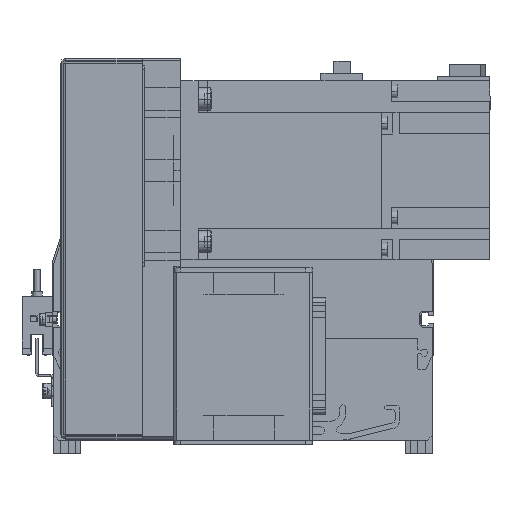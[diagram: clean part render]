
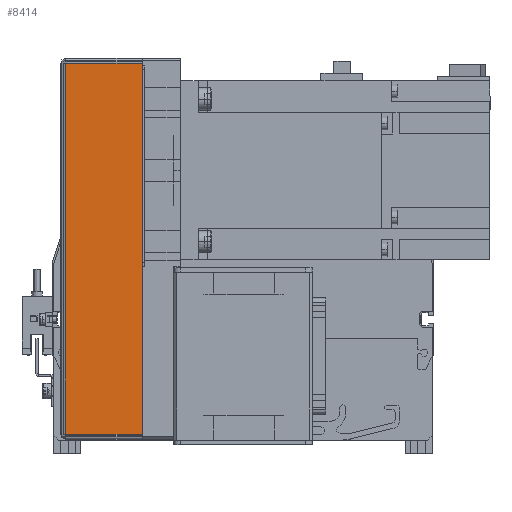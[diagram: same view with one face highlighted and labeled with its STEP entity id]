
A CAD part, front view. The second image highlights one B-rep face of the part: STEP entity #8414.
In plain terms, the highlighted planar face has unit normal (0, -1, 0).
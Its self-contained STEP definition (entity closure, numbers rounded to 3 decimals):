
#2685 = LINE ( 'NONE', #36532, #5942 ) ;
#5113 = VECTOR ( 'NONE', #21536, 1000. ) ;
#5942 = VECTOR ( 'NONE', #18668, 1000. ) ;
#6854 = VERTEX_POINT ( 'NONE', #26775 ) ;
#7356 = ORIENTED_EDGE ( 'NONE', *, *, #21666, .F. ) ;
#7513 = CARTESIAN_POINT ( 'NONE',  ( 14.931, -45.778, 177. ) ) ;
#8273 = CARTESIAN_POINT ( 'NONE',  ( 97.724, -45.778, 212. ) ) ;
#8414 = ADVANCED_FACE ( 'NONE', ( #16916 ), #44774, .F. ) ;
#9793 = CARTESIAN_POINT ( 'NONE',  ( 14.931, -45.778, 213.5 ) ) ;
#11391 = VECTOR ( 'NONE', #13062, 1000. ) ;
#12209 = VERTEX_POINT ( 'NONE', #36541 ) ;
#13062 = DIRECTION ( 'NONE',  ( 0., 0., -1. ) ) ;
#14167 = EDGE_LOOP ( 'NONE', ( #7356, #14968, #42863, #14655 ) ) ;
#14312 = LINE ( 'NONE', #7513, #5113 ) ;
#14655 = ORIENTED_EDGE ( 'NONE', *, *, #24551, .T. ) ;
#14968 = ORIENTED_EDGE ( 'NONE', *, *, #44010, .F. ) ;
#16397 = EDGE_CURVE ( 'NONE', #6854, #38514, #34083, .T. ) ;
#16916 = FACE_OUTER_BOUND ( 'NONE', #14167, .T. ) ;
#17923 = VECTOR ( 'NONE', #23087, 1000. ) ;
#18668 = DIRECTION ( 'NONE',  ( 1., 0., 0. ) ) ;
#21536 = DIRECTION ( 'NONE',  ( 1., 0., 0. ) ) ;
#21666 = EDGE_CURVE ( 'NONE', #12209, #42993, #35728, .T. ) ;
#23036 = CARTESIAN_POINT ( 'NONE',  ( 97.724, -45.778, 177. ) ) ;
#23087 = DIRECTION ( 'NONE',  ( 0., 0., -1. ) ) ;
#24551 = EDGE_CURVE ( 'NONE', #38514, #42993, #14312, .T. ) ;
#24997 = CARTESIAN_POINT ( 'NONE',  ( -67.862, -45.778, 177. ) ) ;
#26775 = CARTESIAN_POINT ( 'NONE',  ( -67.862, -45.778, 211.263 ) ) ;
#27149 = DIRECTION ( 'NONE',  ( 0., 0., 1. ) ) ;
#29287 = AXIS2_PLACEMENT_3D ( 'NONE', #9793, #31063, #27149 ) ;
#31063 = DIRECTION ( 'NONE',  ( 0., 1., 0. ) ) ;
#34083 = LINE ( 'NONE', #36738, #11391 ) ;
#35728 = LINE ( 'NONE', #8273, #17923 ) ;
#36532 = CARTESIAN_POINT ( 'NONE',  ( 99.931, -45.778, 211.263 ) ) ;
#36541 = CARTESIAN_POINT ( 'NONE',  ( 97.724, -45.778, 211.263 ) ) ;
#36738 = CARTESIAN_POINT ( 'NONE',  ( -67.862, -45.778, 213.5 ) ) ;
#38514 = VERTEX_POINT ( 'NONE', #24997 ) ;
#42863 = ORIENTED_EDGE ( 'NONE', *, *, #16397, .T. ) ;
#42993 = VERTEX_POINT ( 'NONE', #23036 ) ;
#44010 = EDGE_CURVE ( 'NONE', #6854, #12209, #2685, .T. ) ;
#44774 = PLANE ( 'NONE',  #29287 ) ;
